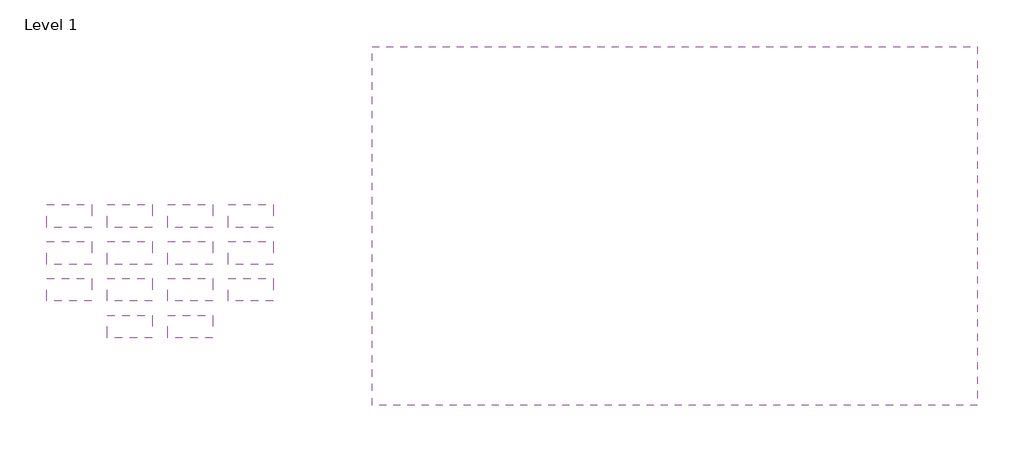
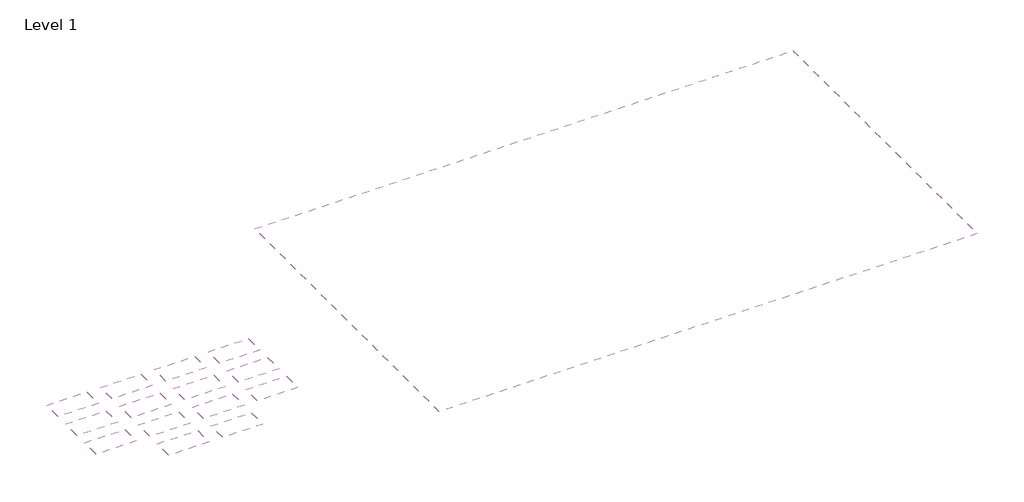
# One storey: 15 coverings.
"""IFC4 building model written with IfcOpenShell, lengths in millimetres."""

from ifc_helpers import new_model, si_unit, frame, origin, place, context, project, spatial, polyline, outline, extrude, element, save

model = new_model("IFC4")

# Units and contexts
model_context = context("Model", 3, world=origin())
ifc_project = project(units=[si_unit("LENGTHUNIT", "METRE", prefix="MILLI")], contexts=[model_context])

# Site, building, storey
site = spatial("IfcSite", under=ifc_project)
building = spatial("IfcBuilding", under=site)
storey = spatial("IfcBuildingStorey", under=building, Name="Level 1", Elevation=0.0)

# Coverings
placement = place(None, origin())
element("IfcCovering", 1, ObjectType="Ceiling - System - Aluminum - Amico Architectural - Expanded Mesh - Apex01", at=placement, inside=storey, context=model_context, shape_type="SweptSolid", body=[
    extrude(outline(polyline([(14776.3571206, 11145.2719939), (14776.3571206, 10992.8719939), (14471.5571206, 10992.8719939), (14471.5571206, 11145.2719939), (14776.3571206, 11145.2719939)])), frame((0.0, 0.0, 2438.4), z_axis=(0.0, 0.0, 1.0), x_axis=(1.0, 0.0, 0.0)), (0.0, 0.0, 1.0), 32.940625),
])
element("IfcCovering", 2, ObjectType="Ceiling - System - Aluminum - Amico Architectural - Expanded Mesh - Apex02", at=placement, inside=storey, context=model_context, shape_type="SweptSolid", body=[
    extrude(outline(polyline([(15182.7571206, 11144.995627), (15182.7571206, 10992.595627), (14877.9571206, 10992.595627), (14877.9571206, 11144.995627), (15182.7571206, 11144.995627)])), frame((0.0, 0.0, 2438.4), z_axis=(0.0, 0.0, 1.0), x_axis=(1.0, 0.0, 0.0)), (0.0, 0.0, 1.0), 32.940625),
])
element("IfcCovering", 3, ObjectType="Ceiling - System - Aluminum - Amico Architectural - Expanded Mesh - Apex03", at=placement, inside=storey, context=model_context, shape_type="SweptSolid", body=[
    extrude(outline(polyline([(15589.1571206, 11144.995627), (15589.1571206, 10992.595627), (15284.3571206, 10992.595627), (15284.3571206, 11144.995627), (15589.1571206, 11144.995627)])), frame((0.0, 0.0, 2438.4), z_axis=(0.0, 0.0, 1.0), x_axis=(1.0, 0.0, 0.0)), (0.0, 0.0, 1.0), 26.9875),
])
element("IfcCovering", 4, ObjectType="Ceiling - System - Aluminum - Amico Architectural - Expanded Mesh - Apex04", at=placement, inside=storey, context=model_context, shape_type="SweptSolid", body=[
    extrude(outline(polyline([(15995.5571206, 11144.995627), (15995.5571206, 10992.595627), (15690.7571206, 10992.595627), (15690.7571206, 11144.995627), (15995.5571206, 11144.995627)])), frame((0.0, 0.0, 2438.4), z_axis=(0.0, 0.0, 1.0), x_axis=(1.0, 0.0, 0.0)), (0.0, 0.0, 1.0), 17.065625),
])
element("IfcCovering", 5, ObjectType="Ceiling - System - Aluminum - Amico Architectural - Expanded Mesh - Bilbao", at=placement, inside=storey, context=model_context, shape_type="SweptSolid", body=[
    extrude(outline(polyline([(14776.3571206, 10896.76989), (14776.3571206, 10744.36989), (14471.5571206, 10744.36989), (14471.5571206, 10896.76989), (14776.3571206, 10896.76989)])), frame((0.0, 0.0, 2438.4), z_axis=(0.0, 0.0, 1.0), x_axis=(1.0, 0.0, 0.0)), (0.0, 0.0, 1.0), 16.4703125),
])
element("IfcCovering", 6, ObjectType="Ceiling - System - Aluminum - Amico Architectural - Expanded Mesh - Cresent", at=placement, inside=storey, context=model_context, shape_type="SweptSolid", body=[
    extrude(outline(polyline([(15182.7571206, 10896.493523), (15182.7571206, 10744.093523), (14877.9571206, 10744.093523), (14877.9571206, 10896.493523), (15182.7571206, 10896.493523)])), frame((0.0, 0.0, 2438.4), z_axis=(0.0, 0.0, 1.0), x_axis=(1.0, 0.0, 0.0)), (0.0, 0.0, 1.0), 9.525),
])
element("IfcCovering", 7, ObjectType="Ceiling - System - Aluminum - Amico Architectural - Expanded Mesh - Pisa", at=placement, inside=storey, context=model_context, shape_type="SweptSolid", body=[
    extrude(outline(polyline([(15589.1571206, 10896.493523), (15589.1571206, 10744.093523), (15284.3571206, 10744.093523), (15284.3571206, 10896.493523), (15589.1571206, 10896.493523)])), frame((0.0, 0.0, 2438.4), z_axis=(0.0, 0.0, 1.0), x_axis=(1.0, 0.0, 0.0)), (0.0, 0.0, 1.0), 9.525),
])
element("IfcCovering", 8, ObjectType="Ceiling - System - Aluminum - Amico Architectural - Expanded Mesh - Sunshade", at=placement, inside=storey, context=model_context, shape_type="SweptSolid", body=[
    extrude(outline(polyline([(15995.5571206, 10896.493523), (15995.5571206, 10744.093523), (15690.7571206, 10744.093523), (15690.7571206, 10896.493523), (15995.5571206, 10896.493523)])), frame((0.0, 0.0, 2438.4), z_axis=(0.0, 0.0, 1.0), x_axis=(1.0, 0.0, 0.0)), (0.0, 0.0, 1.0), 7.9375),
])
element("IfcCovering", 9, ObjectType="Ceiling - System - Aluminum - Amico Architectural - Expanded Mesh - Venetian", at=placement, inside=storey, context=model_context, shape_type="SweptSolid", body=[
    extrude(outline(polyline([(14776.3571206, 10650.1836937), (14776.3571206, 10497.7836937), (14471.5571206, 10497.7836937), (14471.5571206, 10650.1836937), (14776.3571206, 10650.1836937)])), frame((0.0, 0.0, 2438.4), z_axis=(0.0, 0.0, 1.0), x_axis=(1.0, 0.0, 0.0)), (0.0, 0.0, 1.0), 8.334375),
])
element("IfcCovering", 10, ObjectType="Ceiling - System - Steel - Amico Architectural - Perforated Stock Metal - 3/4\" Circle - 1\" Staggered", at=placement, inside=storey, context=model_context, shape_type="SweptSolid", body=[
    extrude(outline(polyline([(15182.7571206, 10649.9073268), (15182.7571206, 10497.5073268), (14877.9571206, 10497.5073268), (14877.9571206, 10649.9073268), (15182.7571206, 10649.9073268)])), frame((0.0, 0.0, 2438.4), z_axis=(0.0, 0.0, 1.0), x_axis=(1.0, 0.0, 0.0)), (0.0, 0.0, 1.0), 6.35),
])
element("IfcCovering", 11, ObjectType="Ceiling - System - Steel - Amico Architectural - Perforated Stock Metal - 3/16\" Circle - 5/16\" Staggered", at=placement, inside=storey, context=model_context, shape_type="SweptSolid", body=[
    extrude(outline(polyline([(15589.1571206, 10649.9073268), (15589.1571206, 10497.5073268), (15284.3571206, 10497.5073268), (15284.3571206, 10649.9073268), (15589.1571206, 10649.9073268)])), frame((0.0, 0.0, 2438.4), z_axis=(0.0, 0.0, 1.0), x_axis=(1.0, 0.0, 0.0)), (0.0, 0.0, 1.0), 6.35),
])
element("IfcCovering", 12, ObjectType="Ceiling - System - Steel - Amico Architectural - Perforated Stock Metal - 9/16\" Circle - 11/16\" Staggered", at=placement, inside=storey, context=model_context, shape_type="SweptSolid", body=[
    extrude(outline(polyline([(15995.5571206, 10649.9073268), (15995.5571206, 10497.5073268), (15690.7571206, 10497.5073268), (15690.7571206, 10649.9073268), (15995.5571206, 10649.9073268)])), frame((0.0, 0.0, 2438.4), z_axis=(0.0, 0.0, 1.0), x_axis=(1.0, 0.0, 0.0)), (0.0, 0.0, 1.0), 6.35),
])
element("IfcCovering", 13, ObjectType="Ceiling - System - Steel - Amico Architectural - Perforated Stock Metal - 3019 - 1/4\" Circle - 3/8\" Staggered", at=placement, inside=storey, context=model_context, shape_type="SweptSolid", body=[
    extrude(outline(polyline([(15182.7571206, 10402.1505691), (15182.7571206, 10249.7505691), (14877.9571206, 10249.7505691), (14877.9571206, 10402.1505691), (15182.7571206, 10402.1505691)])), frame((0.0, 0.0, 2438.4), z_axis=(0.0, 0.0, 1.0), x_axis=(1.0, 0.0, 0.0)), (0.0, 0.0, 1.0), 6.35),
])
element("IfcCovering", 14, ObjectType="Ceiling - System - Steel - Amico Architectural - Perforated Stock Metal - 3196A - 1/2\" Circle - 11/16\" Staggered", at=placement, inside=storey, context=model_context, shape_type="SweptSolid", body=[
    extrude(outline(polyline([(15589.1571206, 10402.1505691), (15589.1571206, 10249.7505691), (15284.3571206, 10249.7505691), (15284.3571206, 10402.1505691), (15589.1571206, 10402.1505691)])), frame((0.0, 0.0, 2438.4), z_axis=(0.0, 0.0, 1.0), x_axis=(1.0, 0.0, 0.0)), (0.0, 0.0, 1.0), 6.35),
])
element("IfcCovering", 15, ObjectType="Ceiling - System - Aluminum - Amico Architectural - Expanded Mesh - Apex01", at=placement, inside=storey, context=model_context, shape_type="SweptSolid", body=[
    extrude(outline(polyline([(16659.0734777, 12209.0455394), (20723.0734777, 12209.0455394), (20723.0734777, 9796.0455394), (16659.0734777, 9796.0455394), (16659.0734777, 12209.0455394)])), frame((0.0, 0.0, 2438.4), z_axis=(0.0, 0.0, 1.0), x_axis=(1.0, 0.0, 0.0)), (0.0, 0.0, 1.0), 32.940625),
])

save(model, "model.ifc")
